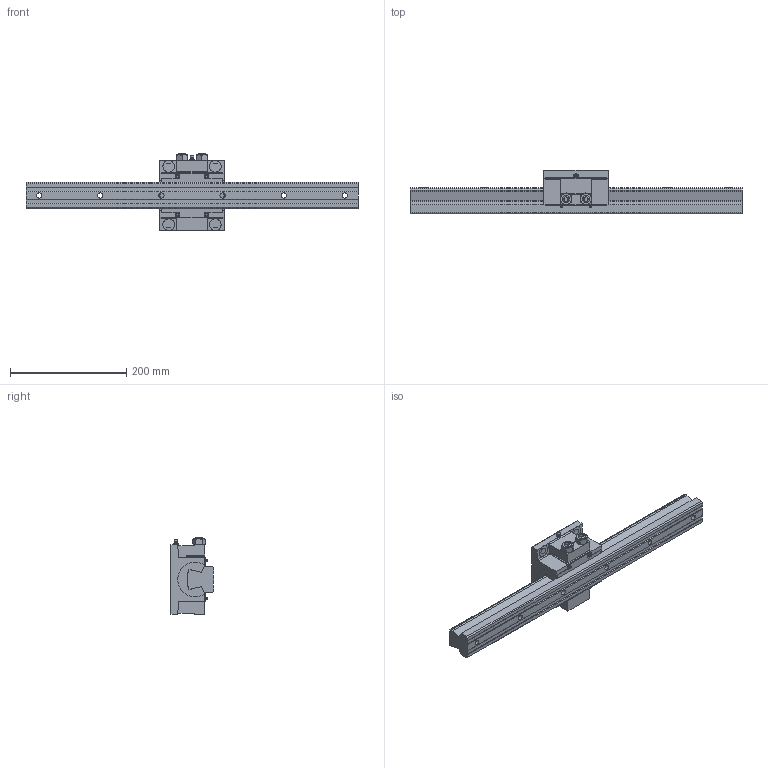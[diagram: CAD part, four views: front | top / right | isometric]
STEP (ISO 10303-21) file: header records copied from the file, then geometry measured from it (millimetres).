
FILE_DESCRIPTION(/* description */ ('STEP AP203'),/* implementation_level */ '2;1');
FILE_NAME(/* name */ 'NSR40TBC1-570L_G22-5_0_A-M6F_230_0_0_0',/* time_stamp */ '2024-05-21T12:12:36+02:00',/* author */ ('License CC BY-ND 4.0'),/* organization */ ('CADENAS'),/* preprocessor_version */ 'ST-DEVELOPER v19.3',/* originating_system */ 'PARTsolutions',/* authorisation */ ' ');
FILE_SCHEMA (('CONFIG_CONTROL_DESIGN'));
Length unit declared in the file: millimetre
Products named in the file (3): NSR40TBC1-570L_G22-5_0_A-M6F_230_0_0_0; NSR40TBC57022.5 Track; NSR40TBC
Assembly tree (2 placements, depth 2):
  NSR40TBC1-570L_G22-5_0_A-M6F_230_0_0_0
    NSR40TBC57022.5 Track
    NSR40TBC
Bounding box: 570 x 75 x 132 mm (x, y, z)
Volume: 1442930 mm3; surface area: 177788.1 mm2
Topology: 2 solids, 2 shells, 265 faces, 689 edges, 438 vertices
Faces by surface type: plane 168, cylinder 56, cone 32, torus 7, sphere 2
Full cylindrical faces by diameter (mm): 4.5 x4, 8.5 x2, 9 x6, 11 x4, 14 x6, 20 x4
Entity records: 7835 total; most frequent: CARTESIAN_POINT 1552, ORIENTED_EDGE 1264, DIRECTION 1248, EDGE_CURVE 632, AXIS2_PLACEMENT_3D 424, VERTEX_POINT 422, LINE 400, VECTOR 400
